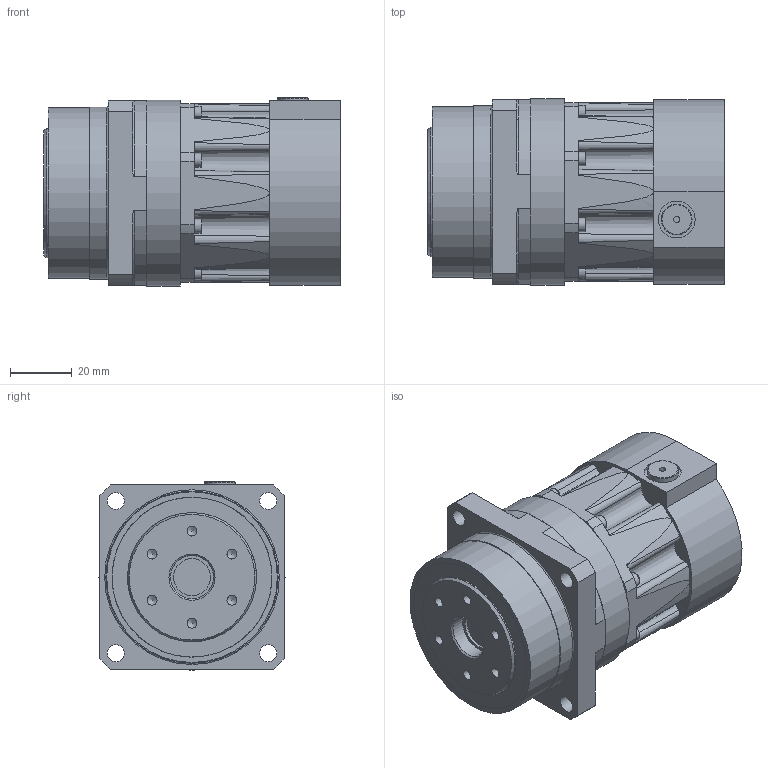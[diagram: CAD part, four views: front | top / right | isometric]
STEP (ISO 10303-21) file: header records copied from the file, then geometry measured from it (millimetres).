
FILE_DESCRIPTION(/* description */ ('ANFX-P110F-2-2C'),/* implementation_level */ '2;1');
FILE_NAME(/* name */ 'C:\Users\ADMINI~1\AppData\Local\Temp\MM582327_ANFX-P110F-2-2C.stp',/* time_stamp */ '2018-06-20T09:16:16+02:00',/* author */ ('Max'),/* organization */ (''),/* preprocessor_version */ 'ST-DEVELOPER v17',/* originating_system */ 'Autodesk Inventor 2018',/* authorisation */ '');
FILE_SCHEMA (('AUTOMOTIVE_DESIGN { 1 0 10303 214 3 1 1 }'));
Length unit declared in the file: millimetre
Products named in the file (17): MM579792; MMBG0004139; MMCL239LG; MMCL240LG; MAW8353G; MAX4839G; MMBG0004131; MMCH473LG; MMAP6508G; 009M003R010NG; MMAP3153G; 202119; M009M2,5R020NG; 530N20357---G; 135352; MAW8349G; M009M004R022NG
Assembly tree (26 placements, depth 3):
  MM579792
    MMBG0004139
      MMCL239LG
      MMCL240LG
      MAW8353G
      MAX4839G
    MMBG0004131
      MMCH473LG
      MMAP6508G
      009M003R010NG
      MMAP3153G
      202119
      M009M2,5R020NG  x8
      530N20357---G
    135352
    MAW8349G
    M009M004R022NG  x4
Bounding box: 96.5 x 60.5 x 61.25 mm (x, y, z)
Volume: 158783.9 mm3; surface area: 87895.3 mm2
Topology: 93 solids, 94 shells, 617 faces, 1758 edges, 1247 vertices
Faces by surface type: plane 223, cylinder 171, cone 108, sphere 68, torus 47
Full cylindrical faces by diameter (mm): 2 x1, 2.013 x8, 2.459 x6, 2.5 x8, 2.9 x8, 3 x9, 3.242 x14, 3.4 x1, 4 x4, 4.5 x12, 5.5 x5, 7 x4, 7.8 x1, 8 x5, 8.2 x1, 8.4 x1, 9.5 x1, 10 x1, 12 x2, 14 x1, 19 x2, 19.4 x1, 19.6 x1, 20 x2, 20.5 x1, 22 x1, 24 x1, 25.172 x2, 27.5 x4, 30 x1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
Entity records: 16943 total; most frequent: CARTESIAN_POINT 3526, DIRECTION 2944, ORIENTED_EDGE 2390, AXIS2_PLACEMENT_3D 1303, EDGE_CURVE 1195, VERTEX_POINT 966, CIRCLE 790, EDGE_LOOP 619
